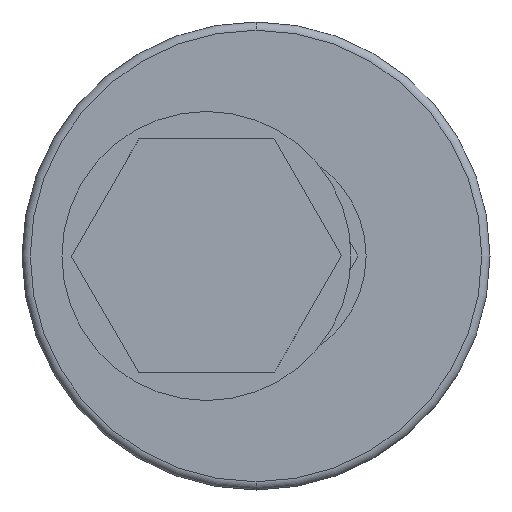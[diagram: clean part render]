
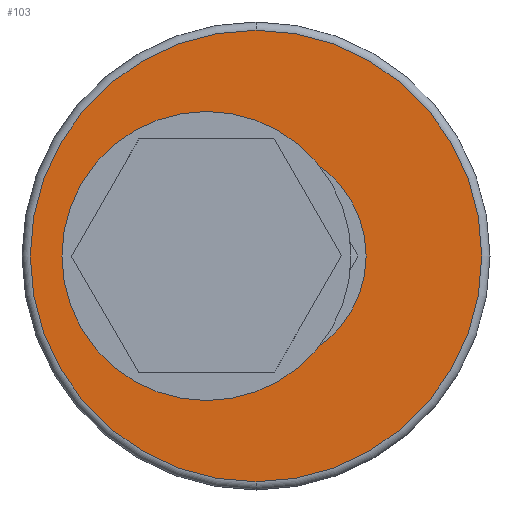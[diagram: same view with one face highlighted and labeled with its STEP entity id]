
A CAD part, front view. The second image highlights one B-rep face of the part: STEP entity #103.
In plain terms, the highlighted planar face has unit normal (0, -1, 0).
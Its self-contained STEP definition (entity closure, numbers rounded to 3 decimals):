
#103=ADVANCED_FACE('',(#185,#186),#187,.T.);
#185=FACE_OUTER_BOUND('',#335,.T.);
#186=FACE_BOUND('',#336,.T.);
#187=PLANE('',#337);
#335=EDGE_LOOP('',(#543,#544));
#336=EDGE_LOOP('',(#545,#546));
#337=AXIS2_PLACEMENT_3D('',#547,#548,#549);
#543=ORIENTED_EDGE('',*,*,#1001,.T.);
#544=ORIENTED_EDGE('',*,*,#1009,.T.);
#545=ORIENTED_EDGE('',*,*,#1008,.F.);
#546=ORIENTED_EDGE('',*,*,#1005,.F.);
#547=CARTESIAN_POINT('',(1.25,3.5,-8.0));
#548=DIRECTION('',(0.,-1.0,0.));
#549=DIRECTION('',(-1.0,0.,0.));
#1001=EDGE_CURVE('',#1183,#1181,#1184,.T.);
#1005=EDGE_CURVE('',#1189,#1191,#1192,.T.);
#1008=EDGE_CURVE('',#1191,#1189,#1195,.T.);
#1009=EDGE_CURVE('',#1181,#1183,#1196,.T.);
#1181=VERTEX_POINT('',#1431);
#1183=VERTEX_POINT('',#1433);
#1184=CIRCLE('',#1434,16.4);
#1189=VERTEX_POINT('',#1439);
#1191=VERTEX_POINT('',#1442);
#1192=CIRCLE('',#1443,8.0);
#1195=CIRCLE('',#1447,8.0);
#1196=CIRCLE('',#1448,16.4);
#1431=CARTESIAN_POINT('',(1.25,3.5,16.4));
#1433=CARTESIAN_POINT('',(1.25,3.5,-16.4));
#1434=AXIS2_PLACEMENT_3D('',#1823,#1824,#1825);
#1439=CARTESIAN_POINT('',(1.25,3.5,8.0));
#1442=CARTESIAN_POINT('',(1.25,3.5,-8.0));
#1443=AXIS2_PLACEMENT_3D('',#1833,#1834,#1835);
#1447=AXIS2_PLACEMENT_3D('',#1840,#1841,#1842);
#1448=AXIS2_PLACEMENT_3D('',#1843,#1844,#1845);
#1823=CARTESIAN_POINT('',(1.25,3.5,0.));
#1824=DIRECTION('',(0.,-1.0,0.));
#1825=DIRECTION('',(0.,0.,-1.0));
#1833=CARTESIAN_POINT('',(1.25,3.5,0.));
#1834=DIRECTION('',(0.,-1.0,0.));
#1835=DIRECTION('',(0.,0.,-1.0));
#1840=CARTESIAN_POINT('',(1.25,3.5,0.));
#1841=DIRECTION('',(0.,-1.0,0.));
#1842=DIRECTION('',(0.,0.,-1.0));
#1843=CARTESIAN_POINT('',(1.25,3.5,0.));
#1844=DIRECTION('',(0.,-1.0,0.));
#1845=DIRECTION('',(0.,0.,-1.0));
